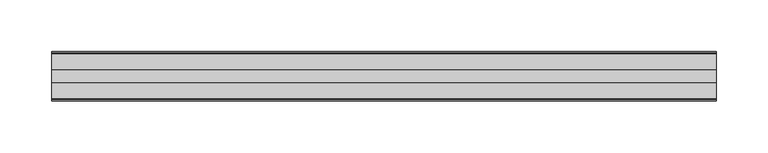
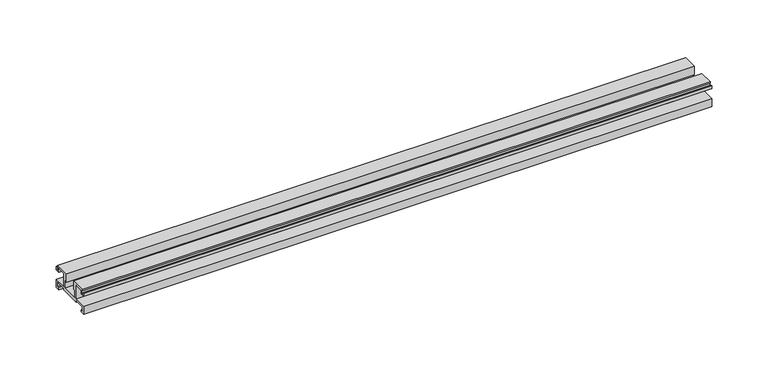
"""IFC4 building model written with IfcOpenShell, lengths in millimetres: proxy geometry, Weiku - Montante - Acoplamento vidro : Weiku - Montante - Acoplamento vidro."""

from ifc_helpers import new_model, si_unit, frame, origin, place, context, project, spatial, polyline, outline, extrude, source, transform, mapped, element, save


def generic_models_86f85d8b(model_context):
    return source(origin(), model_context, "Body", "SweptSolid", [
        extrude(outline(polyline([(-35.405, 5.1494), (-35.405, 6.8004), (-45.741, 6.8004), (-45.741, 2.6094), (-43.8784, 2.6094), (-43.8784, 0.0), (-47.9014508, 0.0), (-47.9014508, 8.79), (-34.946, 8.79), (-34.946, 23.3104), (-43.5397, 23.3104), (-43.5397, 19.204), (-47.9, 19.204), (-47.9, 22.8024), (-46.9264, 22.8024), (-46.9264, 20.3894), (-44.725, 20.3894), (-44.725, 23.9454), (-45.5264504, 23.9454), (-45.5264504, 25.3), (-30.4164, 25.3), (-30.4164, 16.283), (-32.4484, 16.283), (-32.4484, 8.8), (-15.4516, 8.8), (-15.4516, 16.283), (-17.4836, 16.283), (-17.4836, 25.3), (-2.3735496, 25.3), (-2.3735496, 23.9454), (-3.175, 23.9454), (-3.175, 20.3894), (-0.9736, 20.3894), (-0.9736, 22.8024), (0.0, 22.8024), (0.0, 19.204), (-4.3603, 19.204), (-4.3603, 23.3104), (-12.954, 23.3104), (-12.954, 8.79), (0.0014508, 8.79), (0.0014508, 0.0), (-4.0216, 0.0), (-4.0216, 2.6094), (-2.159, 2.6094), (-2.159, 6.8004), (-12.495, 6.8004), (-12.495, 5.1494), (-35.405, 5.1494)])), frame((-321.1, 0.0, 0.0), z_axis=(1.0, 0.0, 0.0), x_axis=(0.0, 1.0, 0.0)), (0.0, 0.0, 1.0), 642.2),
    ])


if __name__ == "__main__":
    model = new_model("IFC4")
    model_context = context("Model", 3, world=origin())
    ifc_project = project(units=[si_unit("LENGTHUNIT", "METRE", prefix="MILLI")], contexts=[model_context])
    site = spatial("IfcSite", under=ifc_project)
    building = spatial("IfcBuilding", under=site)
    placement = place(None, origin())
    generic_models_shape = generic_models_86f85d8b(model_context)
    element("IfcBuildingElementProxy", 1, Name="Weiku - Montante - Acoplamento vidro : Weiku - Montante - Acoplamento vidro", ObjectType="Weiku - Montante - Acoplamento vidro : Weiku - Montante - Acoplamento vidro", at=placement, inside=building, context=model_context, shape_type="MappedRepresentation", body=[
        mapped(generic_models_shape, transform((0.0, 0.0, 0.0), x_axis=(1.0, 0.0, 0.0), y_axis=(0.0, 1.0, 0.0), z_axis=(0.0, 0.0, 1.0))),
    ])
    save(model, "model.ifc")
